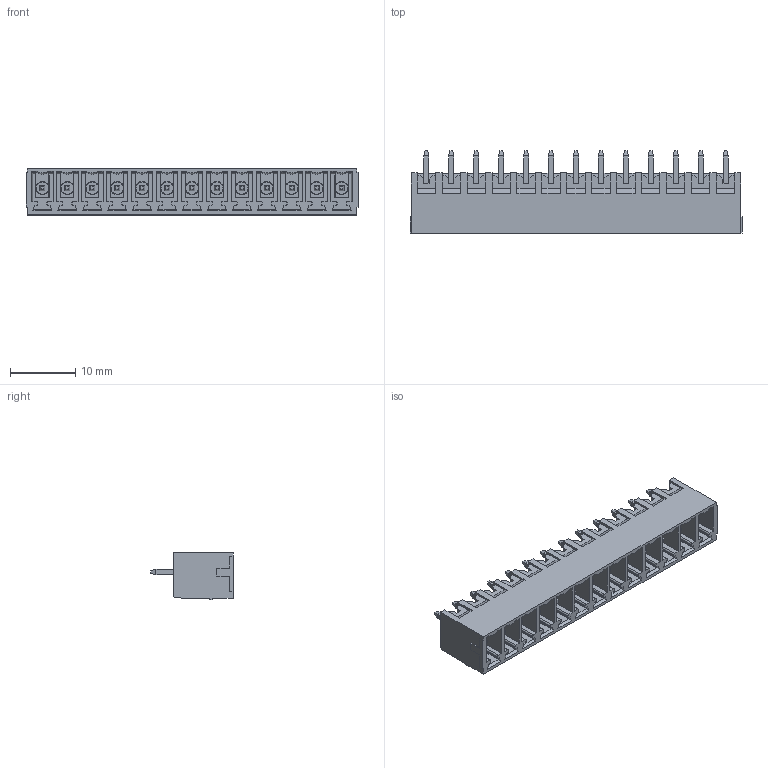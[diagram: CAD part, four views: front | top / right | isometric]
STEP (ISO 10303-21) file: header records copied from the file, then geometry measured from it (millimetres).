
FILE_DESCRIPTION(('FreeCAD Model'),'2;1');
FILE_NAME('Open CASCADE Shape Model','2023-05-24T16:05:59',('Author'),( ''),'Open CASCADE STEP processor 7.6','FreeCAD','Unknown');
FILE_SCHEMA(('AUTOMOTIVE_DESIGN { 1 0 10303 214 1 1 1 1 }'));
Products named in the file (1): BR7MC2-13
Bounding box: 50.72 x 12.6 x 7.2 mm (x, y, z)
Volume: 1523 mm3; surface area: 4604.2 mm2
Topology: 1 solids, 1 shells, 1054 faces, 2805 edges, 1779 vertices
Faces by surface type: plane 923, cylinder 66, cone 39, sphere 26
Entity records: 69670 total; most frequent: CARTESIAN_POINT 13305, DIRECTION 10518, LINE 7761, VECTOR 7761, ORIENTED_EDGE 5558, PCURVE 5558, DEFINITIONAL_REPRESENTATION 5558, EDGE_CURVE 2779
